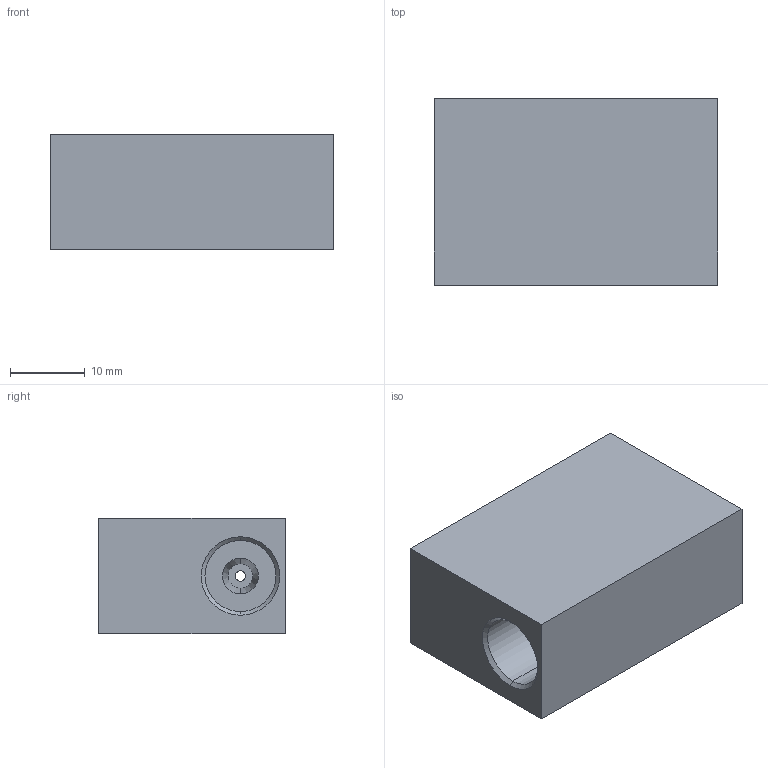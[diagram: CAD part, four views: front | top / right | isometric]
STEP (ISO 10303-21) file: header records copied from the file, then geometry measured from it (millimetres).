
FILE_DESCRIPTION (( 'STEP AP203' ), '1' );
FILE_NAME ('FT15TS02.STEP', '2026-06-26T01:22:13', ( 'USER' ), ( '' ), 'SwSTEP 2.0', 'SolidWorks 2023', '' );
FILE_SCHEMA (( 'CONFIG_CONTROL_DESIGN' ));
Length unit declared in the file: millimetre
Products named in the file (1): FT15TS02
Bounding box: 38 x 25 x 15.5 mm (x, y, z)
Volume: 12838.8 mm3; surface area: 4747.9 mm2
Topology: 1 solids, 1 shells, 41 faces, 86 edges, 52 vertices
Faces by surface type: cylinder 17, cone 12, plane 12
Entity records: 1179 total; most frequent: DIRECTION 210, CARTESIAN_POINT 186, ORIENTED_EDGE 172, EDGE_CURVE 86, AXIS2_PLACEMENT_3D 84, VERTEX_POINT 52, EDGE_LOOP 50, VECTOR 42
